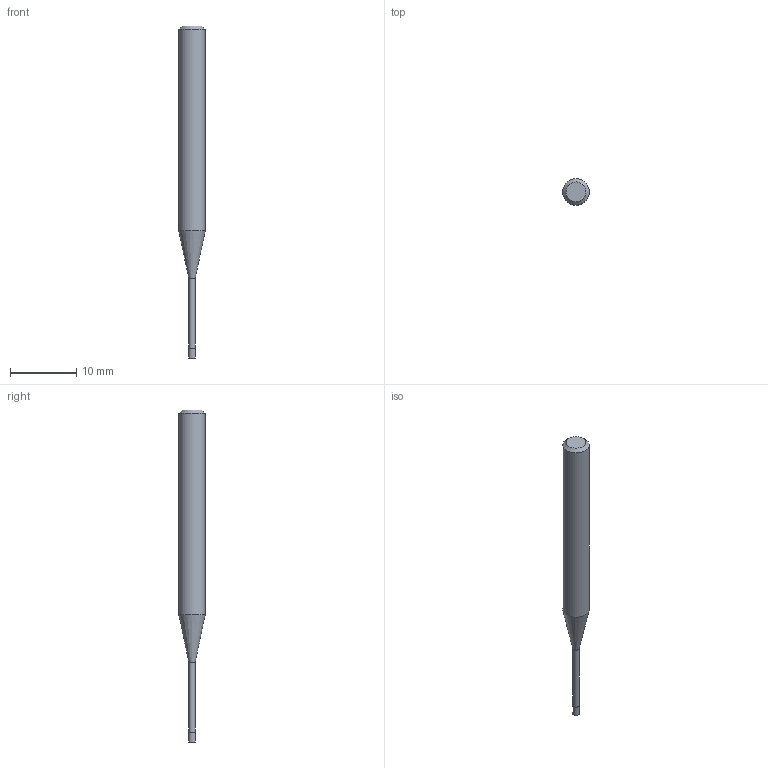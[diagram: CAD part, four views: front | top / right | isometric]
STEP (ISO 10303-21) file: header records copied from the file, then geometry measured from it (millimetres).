
FILE_DESCRIPTION((''),'2;1');
FILE_NAME('C:\Users\nsx150\AppData\Local\Temp\Mastercam 2021\17T8Q8S9EB\TEMP.step','2021-04-21T16:14:17',(''),(''),'STEP Write','Mastercam 2021 ... CNC Software, Inc.','');
FILE_SCHEMA(('AUTOMOTIVE_DESIGN'));
Length unit declared in the file: millimetre
Products named in the file (1): None
Bounding box: 4 x 4 x 50 mm (x, y, z)
Volume: 433.4 mm3; surface area: 491.3 mm2
Topology: 2 solids, 2 shells, 9 faces, 12 edges, 7 vertices
Faces by surface type: plane 4, cylinder 3, cone 2
Full cylindrical faces by diameter (mm): 0.95 x1, 1 x1, 4 x1
Entity records: 211 total; most frequent: DIRECTION 36, CARTESIAN_POINT 25, AXIS2_PLACEMENT_3D 18, ORIENTED_EDGE 14, EDGE_LOOP 14, STYLED_ITEM 12, ADVANCED_FACE 9, FACE_BOUND 8
